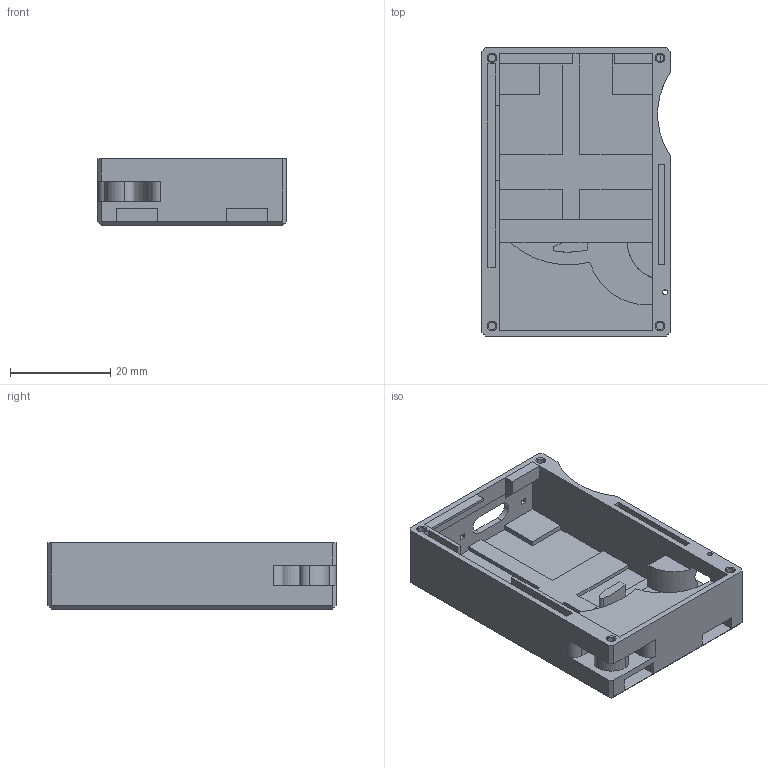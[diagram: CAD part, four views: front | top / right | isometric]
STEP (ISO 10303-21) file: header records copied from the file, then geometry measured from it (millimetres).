
FILE_DESCRIPTION(('FreeCAD Model'),'2;1');
FILE_NAME('Open CASCADE Shape Model','2026-01-29T07:27:10',(''),(''), 'Open CASCADE STEP processor 7.8','FreeCAD','Unknown');
FILE_SCHEMA(('AUTOMOTIVE_DESIGN { 1 0 10303 214 1 1 1 1 }'));
Length unit declared in the file: millimetre
Products named in the file (1): rak_shell
Bounding box: 37.5 x 57.4 x 13.3 mm (x, y, z)
Volume: 8907 mm3; surface area: 10728.3 mm2
Topology: 1 solids, 1 shells, 177 faces, 495 edges, 322 vertices
Faces by surface type: plane 143, cylinder 28, cone 5, bspline 1
Full cylindrical faces by diameter (mm): 1 x2, 1.5 x4
Entity records: 5858 total; most frequent: CARTESIAN_POINT 1201, ORIENTED_EDGE 990, DIRECTION 916, EDGE_CURVE 495, LINE 408, VECTOR 408, VERTEX_POINT 322, AXIS2_PLACEMENT_3D 254
